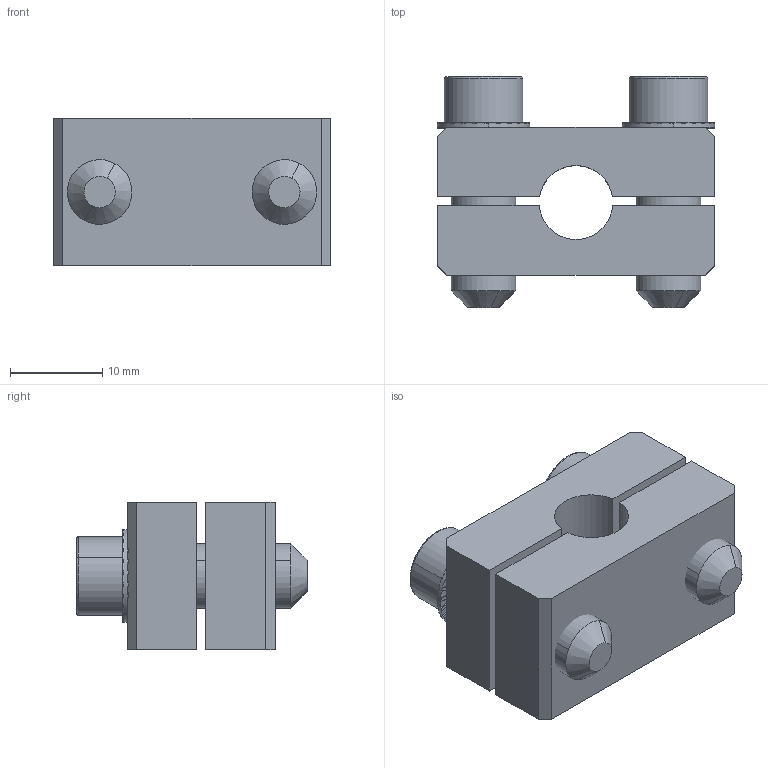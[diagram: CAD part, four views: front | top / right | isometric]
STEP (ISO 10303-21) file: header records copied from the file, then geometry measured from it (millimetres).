
FILE_DESCRIPTION (( 'STEP AP214' ), '1' );
FILE_NAME ('SMBK1-8T16T.STEP', '2022-12-30T03:26:14', ( 'Windows User' ), ( 'P R C' ), 'SwSTEP 2.0', 'SolidWorks 2018', '' );
FILE_SCHEMA (( 'AUTOMOTIVE_DESIGN' ));
Length unit declared in the file: millimetre
Products named in the file (1): SMBK1-8T16T
Bounding box: 30 x 25 x 16 mm (x, y, z)
Volume: 7492.9 mm3; surface area: 5329 mm2
Topology: 6 solids, 6 shells, 458 faces, 1317 edges, 872 vertices
Faces by surface type: plane 399, cylinder 51, cone 4, bspline 4
Entity records: 20110 total; most frequent: CARTESIAN_POINT 2918, DIRECTION 2651, ORIENTED_EDGE 2634, EDGE_CURVE 1317, AXIS2_PLACEMENT_3D 887, LINE 877, VECTOR 877, VERTEX_POINT 872
